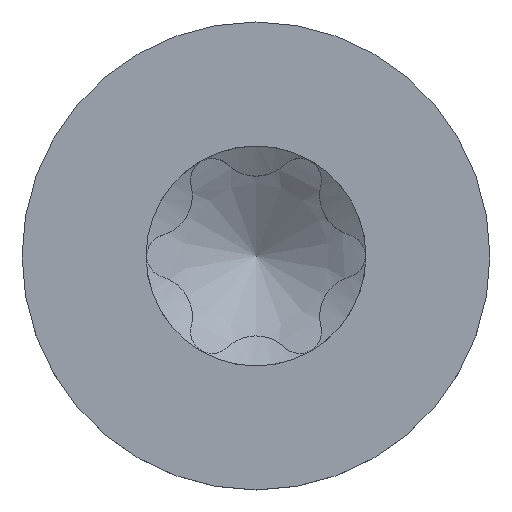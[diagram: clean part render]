
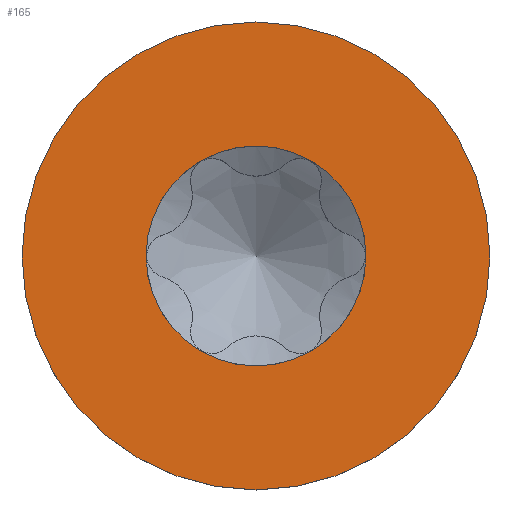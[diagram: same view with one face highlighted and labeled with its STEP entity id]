
A CAD part, top view. The second image highlights one B-rep face of the part: STEP entity #165.
In plain terms, the highlighted planar face has unit normal (0, 0, 1).
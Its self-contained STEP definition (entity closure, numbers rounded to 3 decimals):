
#138=PLANE('',#801);
#145=FACE_BOUND('',#261,.T.);
#146=FACE_BOUND('',#262,.T.);
#165=ADVANCED_FACE('',(#145,#146),#138,.F.);
#261=EDGE_LOOP('',(#412));
#262=EDGE_LOOP('',(#413));
#412=ORIENTED_EDGE('',*,*,#696,.F.);
#413=ORIENTED_EDGE('',*,*,#697,.F.);
#621=VERTEX_POINT('',#1520);
#622=VERTEX_POINT('',#1522);
#696=EDGE_CURVE('',#621,#621,#781,.T.);
#697=EDGE_CURVE('',#622,#622,#782,.T.);
#781=CIRCLE('',#799,1.41);
#782=CIRCLE('',#800,3.);
#799=AXIS2_PLACEMENT_3D('',#1519,#849,#850);
#800=AXIS2_PLACEMENT_3D('',#1521,#851,#852);
#801=AXIS2_PLACEMENT_3D('',#1523,#853,#854);
#849=DIRECTION('',(0.,0.,1.));
#850=DIRECTION('',(-1.,0.,0.));
#851=DIRECTION('',(0.,0.,-1.));
#852=DIRECTION('',(-1.,0.,0.));
#853=DIRECTION('',(0.,0.,-1.));
#854=DIRECTION('',(-1.,0.,0.));
#1519=CARTESIAN_POINT('',(0.,0.,2.375));
#1520=CARTESIAN_POINT('',(-1.41,0.,2.375));
#1521=CARTESIAN_POINT('',(0.,0.,2.375));
#1522=CARTESIAN_POINT('',(-3.,0.,2.375));
#1523=CARTESIAN_POINT('',(0.,0.,2.375));
